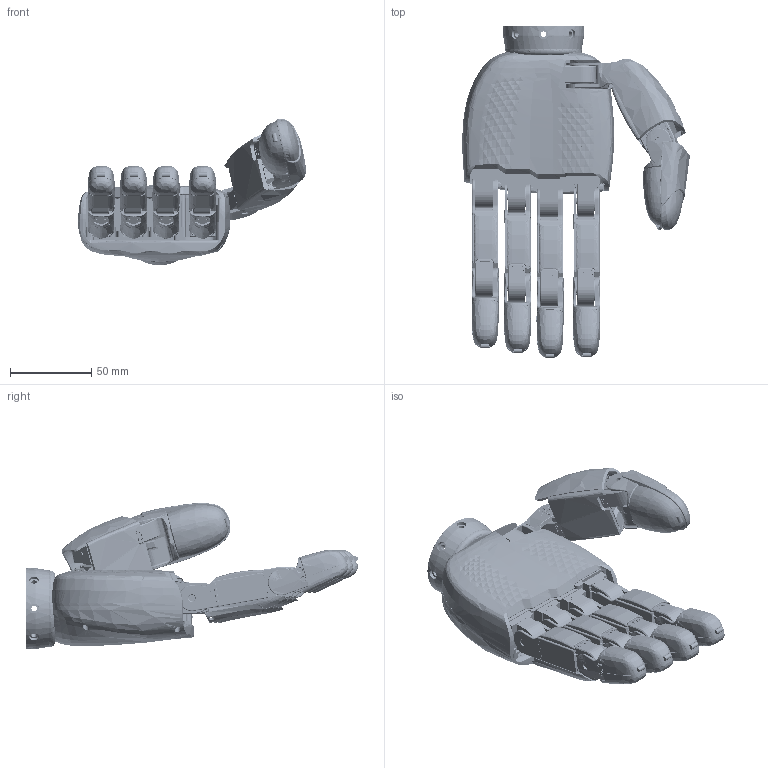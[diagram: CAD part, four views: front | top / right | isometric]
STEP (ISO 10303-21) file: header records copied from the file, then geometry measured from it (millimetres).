
FILE_DESCRIPTION (( 'STEP AP214' ), '1' );
FILE_NAME ('MH2.25酘忒-嘐隅耀倰.STEP', '2025-02-19T08:36:24', ( '' ), ( '' ), 'SwSTEP 2.0', 'SolidWorks 2024', '' );
FILE_SCHEMA (( 'AUTOMOTIVE_DESIGN' ));
Length unit declared in the file: millimetre
Products named in the file (1): MH2.25左手-固定模型
Bounding box: 140.37 x 204.6 x 90.17 mm (x, y, z)
Volume: 357763.2 mm3; surface area: 162126.3 mm2
Topology: 19 solids, 101 shells, 10014 faces, 26519 edges, 16451 vertices
Faces by surface type: plane 4598, cylinder 2416, bspline 2022, cone 665, torus 273, sphere 40
Entity records: 666592 total; most frequent: CARTESIAN_POINT 325607, ORIENTED_EDGE 52026, DIRECTION 41835, EDGE_CURVE 26013, VERTEX_POINT 16451, AXIS2_PLACEMENT_3D 14199, VECTOR 13437, LINE 13437
